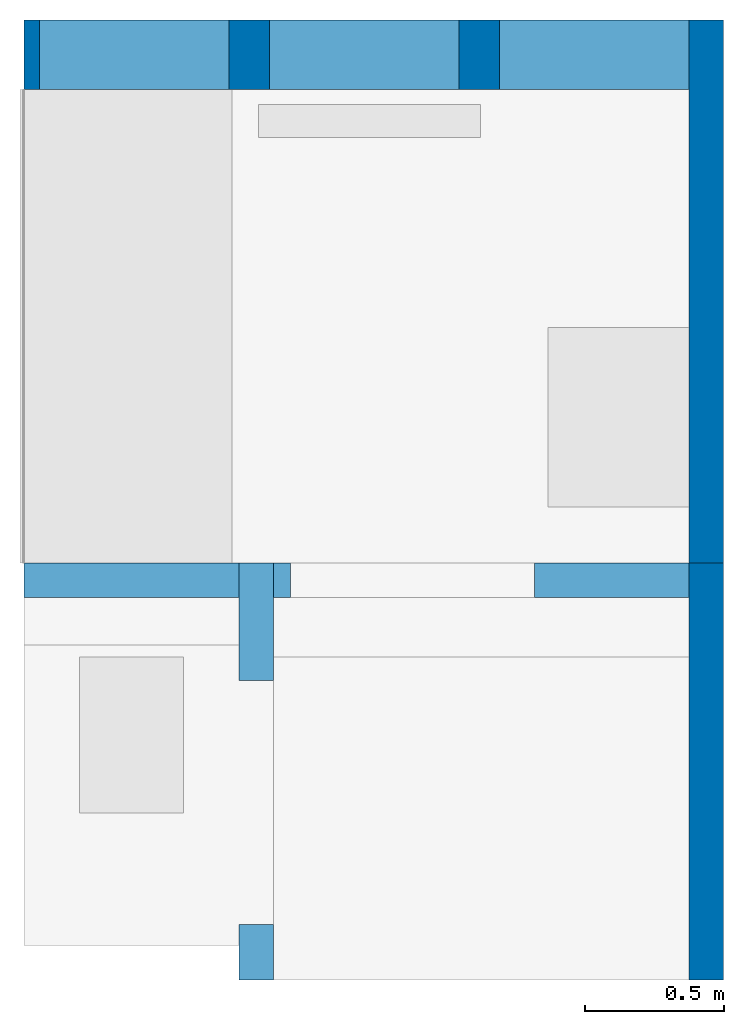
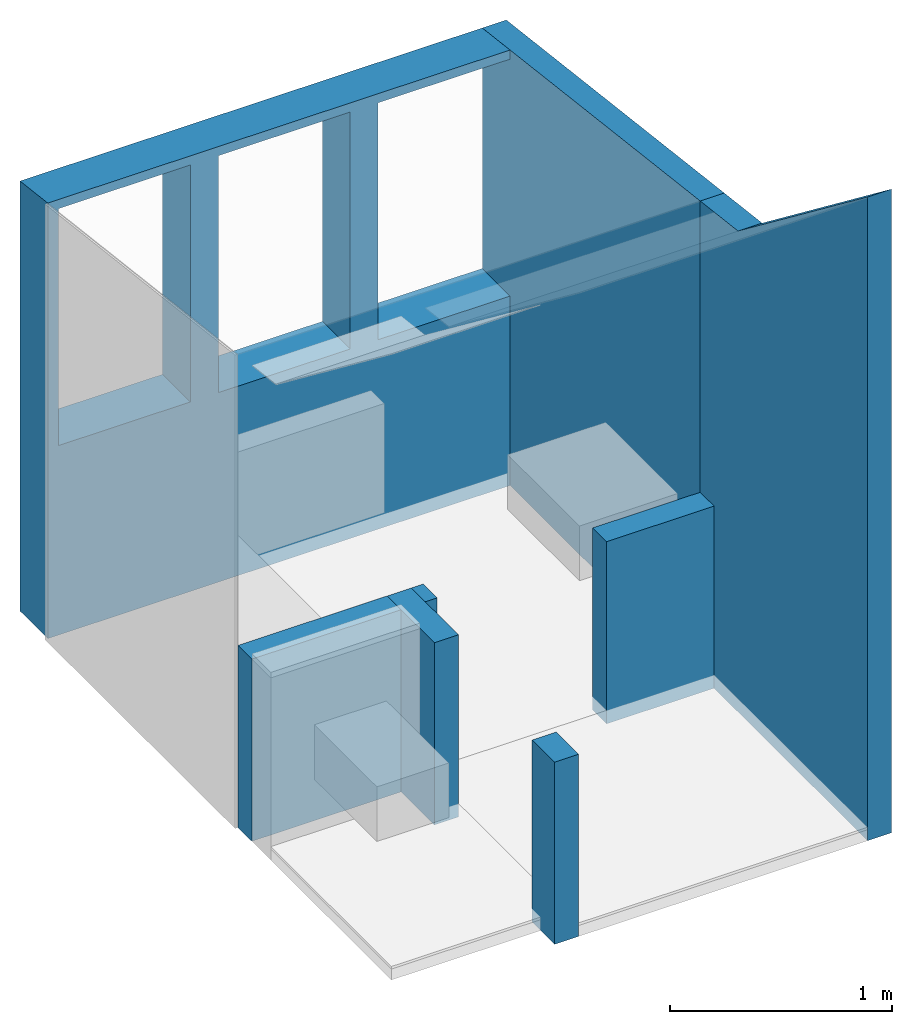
# One storey, part 1 of 4: 6 walls, 5 openings, 6 elements without a shape of their own.
"""IFC4 building model written with IfcOpenShell, lengths in metres."""

import ifcopenshell
import ifcopenshell.guid

model = None  # the IFC model being written
_history = None  # IfcOwnerHistory: only IFC2X3 demands one
_inside = {}  # id of a spatial element -> (the spatial element, [elements in it])
_under = {}  # id of a project, library or spatial element -> (it, [spatial elements below it])
_declared = {}  # id of a project -> (the project, [libraries it declares])
_typed = {}  # id of a type object -> (the type object, [elements of that type])
_made_of = {}  # id of a material, layer set ... -> (it, [elements and type objects made of it])


def new_model(schema):
    """Start an empty IFC model of exactly this schema.

    Asked for "IFC4X3", IfcOpenShell would pick the latest addendum, in which some entities
    have other attributes; the version numbers below select the first issue.
    IFC2X3 requires an IfcOwnerHistory on every rooted entity: one is made here for all.
    """
    global model, _history
    if schema == "IFC4X3":
        model = ifcopenshell.file(schema_version=(4, 3, 0, 0))
    else:
        model = ifcopenshell.file(schema=schema)
    _inside.clear()
    _under.clear()
    _declared.clear()
    _typed.clear()
    _made_of.clear()
    _history = None
    if model.schema == "IFC2X3":
        org = make("IfcOrganization", Name="unknown")
        user = make(
            "IfcPersonAndOrganization",
            ThePerson=make("IfcPerson", FamilyName="unknown"),
            TheOrganization=org,
        )
        app = make(
            "IfcApplication",
            ApplicationDeveloper=org,
            Version="unknown",
            ApplicationFullName="unknown",
            ApplicationIdentifier="unknown",
        )
        _history = make(
            "IfcOwnerHistory",
            OwningUser=user,
            OwningApplication=app,
            ChangeAction="ADDED",
            CreationDate=0,
        )
    return model


def make(cls, **values):
    """One entity of the class cls with the attributes given. An attribute that is None is left unset."""
    return model.create_entity(
        cls, **{name: value for name, value in values.items() if value is not None}
    )


def entity(cls, *values):
    """Any entity or typed value of the class cls, its attributes in the order of the schema. None: left unset."""
    e = model.create_entity(cls)
    for i, value in enumerate(values):
        if value is not None:
            e[i] = value
    return e


def rooted(cls, **values):
    """An entity with a GlobalId (a new one), such as an element, a storey or a relation."""
    return make(cls, GlobalId=ifcopenshell.guid.new(), OwnerHistory=_history, **values)


def si_unit(unit_type, name, prefix=None):
    """IfcSIUnit, for example si_unit("LENGTHUNIT", "METRE", prefix="MILLI")."""
    return make("IfcSIUnit", UnitType=unit_type, Prefix=prefix, Name=name)


def converted_unit(unit_type, name, factor, base, dimensions=None, offset=None):
    """IfcConversionBasedUnit, such as the inch: factor (a typed value) times the base unit."""
    return make(
        "IfcConversionBasedUnit"
        if offset is None
        else "IfcConversionBasedUnitWithOffset",
        ConversionOffset=offset,
        Dimensions=None
        if dimensions is None
        else entity("IfcDimensionalExponents", *dimensions),
        UnitType=unit_type,
        Name=name,
        ConversionFactor=make(
            "IfcMeasureWithUnit", ValueComponent=factor, UnitComponent=base
        ),
    )


def derived_unit(unit_type, elements):
    """IfcDerivedUnit: a product of units, each with its exponent."""
    return make(
        "IfcDerivedUnit",
        Elements=[
            make("IfcDerivedUnitElement", Unit=unit, Exponent=power)
            for unit, power in elements
        ],
        UnitType=unit_type,
    )


def assignment(units):
    """IfcUnitAssignment: the units of a project."""
    return None if units is None else make("IfcUnitAssignment", Units=units)


def point(xyz):
    """IfcCartesianPoint."""
    return None if xyz is None else make("IfcCartesianPoint", Coordinates=xyz)


def direction(xyz):
    """IfcDirection."""
    return None if xyz is None else make("IfcDirection", DirectionRatios=xyz)


def frame(location, z_axis=None, x_axis=None):
    """IfcAxis2Placement3D, a coordinate frame: its origin and axes. An axis left out is left unset."""
    return make(
        "IfcAxis2Placement3D",
        Location=point(location),
        Axis=direction(z_axis),
        RefDirection=direction(x_axis),
    )


def frame_2d(location, x_axis=None):
    """IfcAxis2Placement2D, a coordinate frame in the plane: its origin and x axis."""
    return make(
        "IfcAxis2Placement2D", Location=point(location), RefDirection=direction(x_axis)
    )


def origin():
    """The frame at (0, 0, 0) with its axes left unset."""
    return frame((0.0, 0.0, 0.0))


def origin_with_axes():
    """The frame at (0, 0, 0) with the z axis (0, 0, 1) and the x axis (1, 0, 0) written out."""
    return frame((0.0, 0.0, 0.0), z_axis=(0.0, 0.0, 1.0), x_axis=(1.0, 0.0, 0.0))


def place(relative_to, where):
    """IfcLocalPlacement: puts the frame where relative to a parent placement (None: the world)."""
    return make(
        "IfcLocalPlacement", PlacementRelTo=relative_to, RelativePlacement=where
    )


def context(
    kind, dimensions, precision=None, world=None, true_north=None, identifier=None
):
    """IfcGeometricRepresentationContext, for example the 3D "Model" context."""
    return make(
        "IfcGeometricRepresentationContext",
        ContextIdentifier=identifier,
        ContextType=kind,
        CoordinateSpaceDimension=dimensions,
        Precision=precision,
        WorldCoordinateSystem=world,
        TrueNorth=true_north,
    )


def subcontext(parent, identifier, kind, view, scale=None):
    """IfcGeometricRepresentationSubContext, for example "Body" below "Model"."""
    return make(
        "IfcGeometricRepresentationSubContext",
        ContextIdentifier=identifier,
        ContextType=kind,
        ParentContext=parent,
        TargetScale=scale,
        TargetView=view,
    )


def project(units=None, contexts=None):
    """IfcProject with its units and contexts."""
    return rooted(
        "IfcProject",
        Name="project",
        RepresentationContexts=contexts,
        UnitsInContext=assignment(units),
    )


def spatial(cls, under=None, at=None, **own):
    """A site, building, storey or space (cls), placed at a placement, below another one or the project."""
    s = rooted(cls, ObjectPlacement=at, **own)
    if under is not None:
        _under.setdefault(under.id(), (under, []))[1].append(s)
    return s


def polyline(points):
    """IfcPolyline through the points."""
    return make("IfcPolyline", Points=[point(p) for p in points])


def profile(cls, at=None, kind="AREA", **sizes):
    """A parametric profile (cls). Its sizes go by their IFC names, for example OverallWidth=200.0."""
    return make(cls, ProfileType=kind, Position=at, **sizes)


def rectangle(**sizes):
    """IfcRectangleProfileDef."""
    return profile("IfcRectangleProfileDef", **sizes)


def outline(outer, holes=None, kind="AREA"):
    """IfcArbitraryClosedProfileDef: a profile drawn as a closed curve; with holes, ...WithVoids."""
    if holes is None:
        return make("IfcArbitraryClosedProfileDef", ProfileType=kind, OuterCurve=outer)
    return make(
        "IfcArbitraryProfileDefWithVoids",
        ProfileType=kind,
        OuterCurve=outer,
        InnerCurves=holes,
    )


def extrude(swept, where, along, depth):
    """IfcExtrudedAreaSolid: the profile swept, set in the frame where, extruded along a direction by depth."""
    return make(
        "IfcExtrudedAreaSolid",
        SweptArea=swept,
        Position=where,
        ExtrudedDirection=direction(along),
        Depth=depth,
    )


def clip(a, b, op="DIFFERENCE"):
    """IfcBooleanClippingResult: the solid a cut by the half space b."""
    return make(
        "IfcBooleanClippingResult", Operator=op, FirstOperand=a, SecondOperand=b
    )


def halfspace(plane, agree):
    """IfcHalfSpaceSolid: all space on one side of the plane z = 0 of the frame plane."""
    return make(
        "IfcHalfSpaceSolid",
        BaseSurface=make("IfcPlane", Position=plane),
        AgreementFlag=agree,
    )


def bounded_halfspace(plane, agree, where, boundary):
    """IfcPolygonalBoundedHalfSpace: a half space limited to a polygon's prism."""
    return make(
        "IfcPolygonalBoundedHalfSpace",
        BaseSurface=make("IfcPlane", Position=plane),
        AgreementFlag=agree,
        Position=where,
        PolygonalBoundary=boundary,
    )


def faces_of(points, faces, orient=None, outer=None):
    """IfcFace entities. A face is a list of loops; a loop is a list of indices into points, from 0.

    orient and outer hold one flag for each loop. By default every Orientation is true, the
    first loop of a face is its IfcFaceOuterBound and the others are IfcFaceBound.
    """
    made = []
    for i, loops in enumerate(faces):
        bounds = []
        for j, loop in enumerate(loops):
            is_outer = j == 0 if outer is None else outer[i][j]
            bounds.append(
                make(
                    "IfcFaceOuterBound" if is_outer else "IfcFaceBound",
                    Bound=make("IfcPolyLoop", Polygon=[points[k] for k in loop]),
                    Orientation=True if orient is None else orient[i][j],
                )
            )
        made.append(make("IfcFace", Bounds=bounds))
    return made


def faceted_brep(points, faces, orient=None, outer=None, voids=None):
    """IfcFacetedBrep: a solid bounded by flat faces; with voids (closed shells), ...WithVoids."""
    shared = [point(p) for p in points]
    hull = make("IfcClosedShell", CfsFaces=faces_of(shared, faces, orient, outer))
    if voids is None:
        return make("IfcFacetedBrep", Outer=hull)
    return make(
        "IfcFacetedBrepWithVoids",
        Outer=hull,
        Voids=[
            make(cls, CfsFaces=faces_of(shared, fs, o, b)) for cls, fs, o, b in voids
        ],
    )


def shape(context_of_items, identifier, shape_type, items):
    """IfcShapeRepresentation: the items that make up one representation, for example the "Body"."""
    return make(
        "IfcShapeRepresentation",
        ContextOfItems=context_of_items,
        RepresentationIdentifier=identifier,
        RepresentationType=shape_type,
        Items=items,
    )


def material(Name=None, Category=None):
    """IfcMaterial."""
    return make("IfcMaterial", Name=Name, Category=Category)


def made_of(thing, what):
    """Note that an element or type object is made of a material, layer set ...; save() writes the relation."""
    if what is not None:
        _made_of.setdefault(what.id(), (what, []))[1].append(thing)
    return thing


def element(
    cls,
    number,
    at=None,
    inside=None,
    cuts=None,
    type_object=None,
    material=None,
    context=None,
    identifier="Body",
    shape_type=None,
    held_by="IfcProductDefinitionShape",
    body=None,
    shapes=None,
    **own,
):
    """One element of the class cls, such as IfcWall. Its Tag is "e" and its number.

    at: its placement. inside: the storey or other place that contains it. cuts: it is an
    opening in that element (IfcRelVoidsElement). A single representation is given by context,
    identifier, shape_type and body (its items); several are given by shapes. held_by: the class
    of the entity that holds the representations. save() writes the other relations.
    """
    e = rooted(cls, Tag="e%d" % number, ObjectPlacement=at, **own)
    if body is not None:
        shapes = [shape(context, identifier, shape_type, body)]
    if shapes is not None:
        e.Representation = make(held_by, Representations=shapes)
    if inside is not None:
        _inside.setdefault(inside.id(), (inside, []))[1].append(e)
    if cuts is not None:
        rooted(
            "IfcRelVoidsElement", RelatingBuildingElement=cuts, RelatedOpeningElement=e
        )
    if type_object is not None:
        _typed.setdefault(type_object.id(), (type_object, []))[1].append(e)
    return made_of(e, material)


def aggregate(whole, parts):
    """IfcRelAggregates: a whole, such as a stair, and the parts it consists of."""
    return rooted("IfcRelAggregates", RelatingObject=whole, RelatedObjects=parts)


def save(model, path):
    """Write the relations noted so far, then the file.

    IfcRelAggregates (storeys below a building ...), IfcRelContainedInSpatialStructure (elements
    in a storey), IfcRelDefinesByType, IfcRelAssociatesMaterial and IfcRelDeclares: one each for
    every whole, place, type object, material and project.
    """
    for whole, parts in _under.values():
        aggregate(whole, parts)
    for where, things in _inside.values():
        rooted(
            "IfcRelContainedInSpatialStructure",
            RelatedElements=things,
            RelatingStructure=where,
        )
    for kind, things in _typed.values():
        rooted("IfcRelDefinesByType", RelatedObjects=things, RelatingType=kind)
    for what, things in _made_of.values():
        rooted("IfcRelAssociatesMaterial", RelatedObjects=things, RelatingMaterial=what)
    for by, libraries in _declared.values():
        rooted("IfcRelDeclares", RelatingContext=by, RelatedDefinitions=libraries)
    model.write(path)


model = new_model("IFC4")

# Units and contexts
model_context = context("Model", 3, precision=1e-05, world=origin())
body_context = subcontext(model_context, "Body", "Model", "MODEL_VIEW")
ifc_project = project(units=[si_unit("LENGTHUNIT", "METRE"), si_unit("AREAUNIT", "SQUARE_METRE"), si_unit("VOLUMEUNIT", "CUBIC_METRE"), si_unit("MASSUNIT", "GRAM", prefix="KILO"), converted_unit("PLANEANGLEUNIT", "DEGREE", entity("IfcPlaneAngleMeasure", 0.0174532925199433), si_unit("PLANEANGLEUNIT", "RADIAN"), dimensions=[0, 0, 0, 0, 0, 0, 0]), derived_unit("THERMALTRANSMITTANCEUNIT", [(si_unit("POWERUNIT", "WATT"), 1), (si_unit("THERMODYNAMICTEMPERATUREUNIT", "KELVIN"), -1), (si_unit("LENGTHUNIT", "METRE"), -2)]), derived_unit("VOLUMETRICFLOWRATEUNIT", [(si_unit("LENGTHUNIT", "METRE"), 3), (converted_unit("TIMEUNIT", "hour", entity("IfcTimeMeasure", 3600.0), si_unit("TIMEUNIT", "SECOND"), dimensions=[0, 0, 1, 0, 0, 0, 0]), -1), (si_unit("LENGTHUNIT", "METRE"), -1)])], contexts=[model_context])

# Site, building, storey
site_placement = place(None, origin())
site = spatial("IfcSite", under=ifc_project, at=site_placement, Name="Liegenschaft", CompositionType="ELEMENT")
building_placement = place(site_placement, origin())
building = spatial("IfcBuilding", under=site, at=building_placement, Name="Gebäude", CompositionType="ELEMENT")
storey_placement = place(building_placement, origin())
storey = spatial("IfcBuildingStorey", under=building, at=storey_placement, Name="Geschoss 01", CompositionType="ELEMENT", Elevation=0.0)

# Assembly, wall, opening
assembly_1_placement = place(storey_placement, origin())
assembly_1 = element("IfcElementAssembly", 1, at=assembly_1_placement, inside=storey, PredefinedType="NOTDEFINED")
ifc_material_1 = material(Name="NFZ")
wall_1_placement = place(storey_placement, frame((192.297586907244, 0.442418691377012, 0.0), z_axis=(0.0, 0.0, 1.0), x_axis=(0.0, 1.0, 0.0)))
wall_1 = element("IfcWall", 2, at=wall_1_placement, material=ifc_material_1, context=body_context, shape_type="SweptSolid", body=[
    extrude(rectangle(XDim=1.505, YDim=0.125, at=frame_2d((0.7525, 0.0625), x_axis=(1.0, 0.0))), origin_with_axes(), (0.0, 0.0, 1.0), 1.0),
])
opening_1_placement = place(wall_1_placement, frame((0.201, 0.0, 0.0), z_axis=(0.0, 1.0, 0.0), x_axis=(0.0, 0.0, 1.0)))
element("IfcOpeningElement", 3, at=opening_1_placement, cuts=wall_1, Name="Türöffnung", ObjectType="Opening", context=body_context, shape_type="SweptSolid", body=[
    extrude(outline(polyline([(0.0, 0.88), (2.25, 0.88), (2.25, 0.0), (0.0, 0.0), (0.0, 0.88)])), origin_with_axes(), (0.0, 0.0, 1.0), 0.125),
])
aggregate(assembly_1, [wall_1])

# Assembly, wall
assembly_2_placement = place(storey_placement, origin())
assembly_2 = element("IfcElementAssembly", 4, at=assembly_2_placement, inside=storey, PredefinedType="NOTDEFINED")
ifc_material_2 = material(Name="NFZ")
wall_2_placement = place(storey_placement, frame((192.172586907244, 1.94741869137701, 0.0), z_axis=(0.0, 0.0, 1.0), x_axis=(-1.0, 0.0, 0.0)))
wall_2 = element("IfcWall", 5, at=wall_2_placement, material=ifc_material_2, context=body_context, shape_type="SweptSolid", body=[
    extrude(rectangle(XDim=0.775, YDim=0.125, at=frame_2d((0.3875, 0.0625), x_axis=(1.0, 0.0))), origin_with_axes(), (0.0, 0.0, 1.0), 1.0),
])
aggregate(assembly_2, [wall_2])

assembly_3_placement = place(storey_placement, origin())
assembly_3 = element("IfcElementAssembly", 6, at=assembly_3_placement, inside=storey, PredefinedType="NOTDEFINED")
ifc_material_3 = material(Name="NFZ")
wall_3_placement = place(storey_placement, frame((193.797586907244, 3.90741869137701, 0.0), z_axis=(0.0, 0.0, 1.0), x_axis=(0.0, -1.0, 0.0)))
wall_3 = element("IfcWall", 7, at=wall_3_placement, material=ifc_material_3, context=body_context, shape_type="Clipping", body=[
    clip(extrude(rectangle(XDim=1.96, YDim=0.125, at=frame_2d((0.98, 0.0625), x_axis=(1.0, 0.0))), origin_with_axes(), (0.0, 0.0, 1.0), 2.59860869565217), halfspace(frame((0.98, 0.0625, 2.47930434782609), z_axis=(0.120846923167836, 0.0, -0.992671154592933), x_axis=(-0.992671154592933, 0.0, -0.120846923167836)), True)),
])
aggregate(assembly_3, [wall_3])

# Assembly, wall, opening
assembly_4_placement = place(storey_placement, origin())
assembly_4 = element("IfcElementAssembly", 8, at=assembly_4_placement, inside=storey, PredefinedType="NOTDEFINED")
ifc_material_4 = material(Name="NFZ")
wall_4_placement = place(storey_placement, frame((192.297586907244, 1.82241869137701, 0.0)))
wall_4 = element("IfcWall", 9, at=wall_4_placement, material=ifc_material_4, context=body_context, shape_type="SweptSolid", body=[
    extrude(rectangle(XDim=1.5, YDim=0.125, at=frame_2d((0.75, 0.0625), x_axis=(1.0, 0.0))), origin_with_axes(), (0.0, 0.0, 1.0), 1.0),
])
opening_2_placement = place(wall_4_placement, frame((0.062, 0.0, 0.0), z_axis=(0.0, 1.0, 0.0), x_axis=(0.0, 0.0, 1.0)))
element("IfcOpeningElement", 10, at=opening_2_placement, cuts=wall_4, Name="Türöffnung", ObjectType="Opening", context=body_context, shape_type="SweptSolid", body=[
    extrude(outline(polyline([(0.0, 0.88), (2.25, 0.88), (2.25, 0.0), (0.0, 0.0), (0.0, 0.88)])), origin_with_axes(), (0.0, 0.0, 1.0), 0.125),
])
aggregate(assembly_4, [wall_4])

# Assembly, wall
assembly_5_placement = place(storey_placement, origin())
assembly_5 = element("IfcElementAssembly", 11, at=assembly_5_placement, inside=storey, PredefinedType="NOTDEFINED")
ifc_material_5 = material(Name="NFZ")
wall_5_placement = place(storey_placement, frame((193.922586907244, 0.442418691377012, 0.0), z_axis=(0.0, 0.0, 1.0), x_axis=(0.0, 1.0, 0.0)))
wall_5 = element("IfcWall", 12, at=wall_5_placement, material=ifc_material_5, context=body_context, shape_type="Clipping", body=[
    clip(clip(extrude(rectangle(XDim=1.505, YDim=0.125, at=frame_2d((0.7525, 0.0625), x_axis=(1.0, 0.0))), origin_with_axes(), (0.0, 0.0, 1.0), 3.53336787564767), bounded_halfspace(frame((0.582499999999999, 0.0625, 3.08668393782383), z_axis=(-0.608517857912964, 1.58592678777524e-16, -0.79354017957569), x_axis=(0.79354017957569, 0.0, -0.608517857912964)), True, origin_with_axes(), polyline([(0.0, 0.0), (1.165, 0.0), (1.165, 0.125), (0.0, 0.125), (0.0, 0.0)]))), bounded_halfspace(frame((1.335, 0.0625, 2.61930434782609), z_axis=(-0.120846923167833, 0.0, -0.992671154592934), x_axis=(-0.992671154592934, 0.0, 0.120846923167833)), True, origin_with_axes(), polyline([(1.505, 0.125), (1.165, 0.125), (1.165, 0.0), (1.505, 0.0), (1.505, 0.125)]))),
])
aggregate(assembly_5, [wall_5])

# Assembly, wall, openings
assembly_6_placement = place(storey_placement, origin())
assembly_6 = element("IfcElementAssembly", 13, at=assembly_6_placement, inside=storey, PredefinedType="NOTDEFINED")
ifc_material_6 = material(Name="NFZ")
wall_6_placement = place(storey_placement, frame((191.397586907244, 3.65741869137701, 0.0)))
wall_6 = element("IfcWall", 14, at=wall_6_placement, material=ifc_material_6, context=body_context, shape_type="Clipping", body=[
    clip(extrude(rectangle(XDim=2.4, YDim=0.25, at=frame_2d((1.2, 0.125), x_axis=(1.0, 0.0))), origin_with_axes(), (0.0, 0.0, 1.0), 2.3904347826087), halfspace(frame((1.2, 0.125, 2.37521739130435), z_axis=(0.0, -0.120846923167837, -0.992671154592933), x_axis=(0.0, 0.992671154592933, -0.120846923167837)), True)),
])
opening_3_placement = place(wall_6_placement, frame((1.715, 0.0, 1.04)))
element("IfcOpeningElement", 15, at=opening_3_placement, cuts=wall_6, Name="Fensteröffnung", ObjectType="Opening", context=body_context, shape_type="Brep", body=[
    faceted_brep([(0.0, 0.0, 0.0), (0.685, 0.0, 0.0), (0.685, 0.25, 0.0), (0.0, 0.25, 0.0), (0.685, 0.0, 1.3004347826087), (0.0, 0.0, 1.3004347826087), (0.0, 0.25, 1.27), (0.685, 0.25, 1.27)], [[[0, 1, 2, 3]], [[4, 5, 6, 7]], [[1, 0, 5, 4]], [[2, 1, 4, 7]], [[3, 2, 7, 6]], [[0, 3, 6, 5]]], orient=[[False], [False], [False], [False], [False], [False]]),
])
opening_4_placement = place(wall_6_placement, frame((0.055, 0.0, 1.04)))
element("IfcOpeningElement", 16, at=opening_4_placement, cuts=wall_6, Name="Fensteröffnung", ObjectType="Opening", context=body_context, shape_type="Brep", body=[
    faceted_brep([(0.0, 0.0, 0.0), (0.685, 0.0, 0.0), (0.685, 0.25, 0.0), (0.0, 0.25, 0.0), (0.685, 0.0, 1.3004347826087), (0.0, 0.0, 1.3004347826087), (0.0, 0.25, 1.27), (0.685, 0.25, 1.27)], [[[0, 1, 2, 3]], [[4, 5, 6, 7]], [[1, 0, 5, 4]], [[2, 1, 4, 7]], [[3, 2, 7, 6]], [[0, 3, 6, 5]]], orient=[[False], [False], [False], [False], [False], [False]]),
])
opening_5_placement = place(wall_6_placement, frame((0.885, 0.0, 1.04)))
element("IfcOpeningElement", 17, at=opening_5_placement, cuts=wall_6, Name="Fensteröffnung", ObjectType="Opening", context=body_context, shape_type="Brep", body=[
    faceted_brep([(0.0, 0.0, 0.0), (0.685, 0.0, 0.0), (0.685, 0.25, 0.0), (0.0, 0.25, 0.0), (0.685, 0.0, 1.3004347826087), (0.0, 0.0, 1.3004347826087), (0.0, 0.25, 1.27), (0.685, 0.25, 1.27)], [[[0, 1, 2, 3]], [[4, 5, 6, 7]], [[1, 0, 5, 4]], [[2, 1, 4, 7]], [[3, 2, 7, 6]], [[0, 3, 6, 5]]], orient=[[False], [False], [False], [False], [False], [False]]),
])
aggregate(assembly_6, [wall_6])

save(model, "model.ifc")
